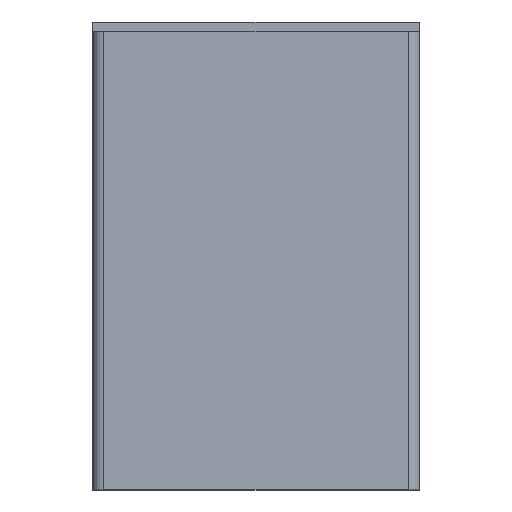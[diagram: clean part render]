
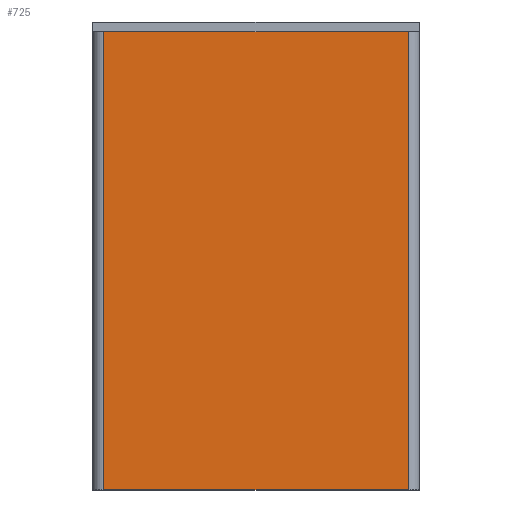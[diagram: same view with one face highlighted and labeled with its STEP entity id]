
A CAD part, top view. The second image highlights one B-rep face of the part: STEP entity #725.
In plain terms, the highlighted planar face has unit normal (0, 0, 1).
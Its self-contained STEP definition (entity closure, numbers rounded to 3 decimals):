
#243 = EDGE_CURVE('',#244,#246,#248,.T.);
#244 = VERTEX_POINT('',#245);
#245 = CARTESIAN_POINT('',(-279.5,418.5,
    232.));
#246 = VERTEX_POINT('',#247);
#247 = CARTESIAN_POINT('',(279.5,418.5,
    232.));
#248 = LINE('',#249,#250);
#249 = CARTESIAN_POINT('',(-279.5,418.5,
    232.));
#250 = VECTOR('',#251,1.);
#251 = DIRECTION('',(1.,0.,0.));
#624 = VERTEX_POINT('',#625);
#625 = CARTESIAN_POINT('',(-279.5,-421.674,
    232.));
#643 = VERTEX_POINT('',#644);
#644 = CARTESIAN_POINT('',(279.5,-421.674,
    232.));
#651 = EDGE_CURVE('',#643,#624,#652,.T.);
#652 = LINE('',#653,#654);
#653 = CARTESIAN_POINT('',(279.5,-421.674,
    232.));
#654 = VECTOR('',#655,1.);
#655 = DIRECTION('',(-1.,0.,0.));
#666 = EDGE_CURVE('',#624,#244,#667,.T.);
#667 = LINE('',#668,#669);
#668 = CARTESIAN_POINT('',(-279.5,-421.674,
    232.));
#669 = VECTOR('',#670,1.);
#670 = DIRECTION('',(0.,1.,0.));
#715 = EDGE_CURVE('',#246,#643,#716,.T.);
#716 = LINE('',#717,#718);
#717 = CARTESIAN_POINT('',(279.5,-421.674,
    232.));
#718 = VECTOR('',#719,1.);
#719 = DIRECTION('',(0.,-1.,0.));
#725 = ADVANCED_FACE('',(#726),#732,.T.);
#726 = FACE_BOUND('',#727,.T.);
#727 = EDGE_LOOP('',(#728,#729,#730,#731));
#728 = ORIENTED_EDGE('',*,*,#651,.F.);
#729 = ORIENTED_EDGE('',*,*,#715,.F.);
#730 = ORIENTED_EDGE('',*,*,#243,.F.);
#731 = ORIENTED_EDGE('',*,*,#666,.F.);
#732 = PLANE('',#733);
#733 = AXIS2_PLACEMENT_3D('',#734,#735,#736);
#734 = CARTESIAN_POINT('',(279.5,-421.674,
    232.));
#735 = DIRECTION('',(0.,0.,1.));
#736 = DIRECTION('',(0.,1.,0.));
